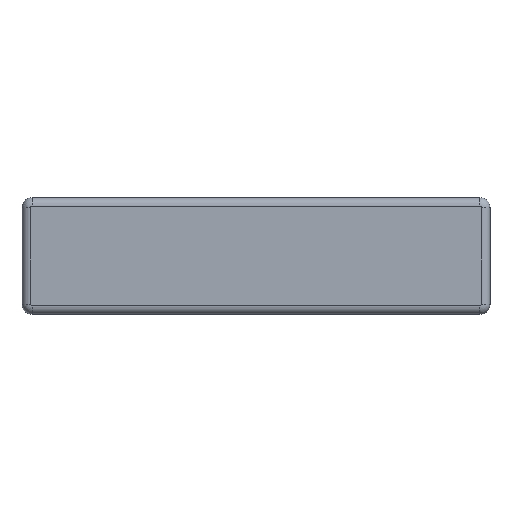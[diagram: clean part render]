
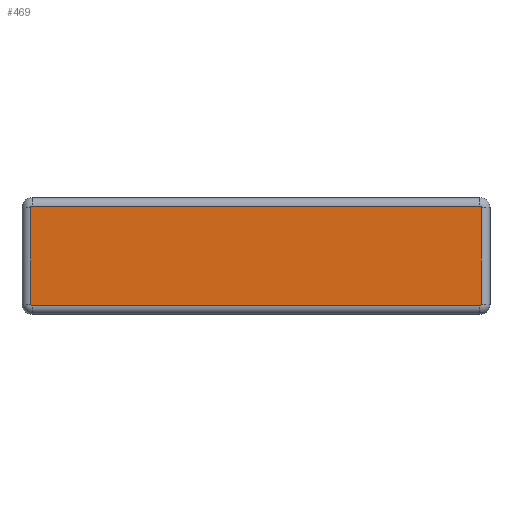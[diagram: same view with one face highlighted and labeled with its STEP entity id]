
A CAD part, top view. The second image highlights one B-rep face of the part: STEP entity #469.
In plain terms, the highlighted planar face has unit normal (0, 0, 1).
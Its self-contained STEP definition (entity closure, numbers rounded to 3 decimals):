
#28 = DIRECTION ( 'NONE',  ( 0., 1., 0. ) ) ;
#35 = ORIENTED_EDGE ( 'NONE', *, *, #3193, .T. ) ;
#57 = VERTEX_POINT ( 'NONE', #1287 ) ;
#117 = VERTEX_POINT ( 'NONE', #440 ) ;
#139 = DIRECTION ( 'NONE',  ( 1., 0., 0. ) ) ;
#174 = AXIS2_PLACEMENT_3D ( 'NONE', #2927, #300, #2661 ) ;
#239 = CARTESIAN_POINT ( 'NONE',  ( -76.5, 16.5, 0. ) ) ;
#300 = DIRECTION ( 'NONE',  ( 0., 0., -1. ) ) ;
#327 = CARTESIAN_POINT ( 'NONE',  ( -76.5, -16.5, 0. ) ) ;
#424 = EDGE_CURVE ( 'NONE', #2783, #1901, #2134, .T. ) ;
#440 = CARTESIAN_POINT ( 'NONE',  ( -76.5, 17., 0. ) ) ;
#469 = ADVANCED_FACE ( 'NONE', ( #3185 ), #2573, .T. ) ;
#511 = VERTEX_POINT ( 'NONE', #1739 ) ;
#513 = EDGE_CURVE ( 'NONE', #57, #2973, #842, .T. ) ;
#587 = VERTEX_POINT ( 'NONE', #2153 ) ;
#593 = EDGE_CURVE ( 'NONE', #511, #587, #3104, .T. ) ;
#666 = ORIENTED_EDGE ( 'NONE', *, *, #513, .F. ) ;
#668 = EDGE_CURVE ( 'NONE', #57, #117, #1249, .T. ) ;
#676 = CARTESIAN_POINT ( 'NONE',  ( 76.5, -17., 0. ) ) ;
#695 = VERTEX_POINT ( 'NONE', #2976 ) ;
#817 = CARTESIAN_POINT ( 'NONE',  ( -77., 16.5, 0. ) ) ;
#820 = DIRECTION ( 'NONE',  ( 0., -1., 0. ) ) ;
#842 = CIRCLE ( 'NONE', #1531, 0.5 ) ;
#1129 = CARTESIAN_POINT ( 'NONE',  ( -76.5, 16.5, 0. ) ) ;
#1147 = DIRECTION ( 'NONE',  ( 0., -1., 0. ) ) ;
#1241 = VECTOR ( 'NONE', #139, 1000. ) ;
#1249 = LINE ( 'NONE', #3576, #1390 ) ;
#1252 = CARTESIAN_POINT ( 'NONE',  ( 77., 16.5, 0. ) ) ;
#1258 = ORIENTED_EDGE ( 'NONE', *, *, #668, .T. ) ;
#1287 = CARTESIAN_POINT ( 'NONE',  ( 76.5, 17., 0. ) ) ;
#1381 = DIRECTION ( 'NONE',  ( 0., -1., 0. ) ) ;
#1382 = ORIENTED_EDGE ( 'NONE', *, *, #424, .F. ) ;
#1390 = VECTOR ( 'NONE', #2725, 1000. ) ;
#1531 = AXIS2_PLACEMENT_3D ( 'NONE', #2902, #1695, #3487 ) ;
#1542 = EDGE_CURVE ( 'NONE', #2783, #2973, #3540, .T. ) ;
#1553 = EDGE_LOOP ( 'NONE', ( #666, #1258, #2832, #35, #2359, #3005, #1382, #3216 ) ) ;
#1677 = EDGE_CURVE ( 'NONE', #511, #1901, #3667, .T. ) ;
#1695 = DIRECTION ( 'NONE',  ( 0., 0., -1. ) ) ;
#1705 = AXIS2_PLACEMENT_3D ( 'NONE', #327, #3523, #3278 ) ;
#1739 = CARTESIAN_POINT ( 'NONE',  ( -76.5, -17., 0. ) ) ;
#1864 = AXIS2_PLACEMENT_3D ( 'NONE', #239, #1979, #1381 ) ;
#1901 = VERTEX_POINT ( 'NONE', #676 ) ;
#1979 = DIRECTION ( 'NONE',  ( 0., 0., -1. ) ) ;
#2134 = CIRCLE ( 'NONE', #174, 0.5 ) ;
#2153 = CARTESIAN_POINT ( 'NONE',  ( -77., -16.5, 0. ) ) ;
#2228 = CARTESIAN_POINT ( 'NONE',  ( -76.5, -17., 0. ) ) ;
#2359 = ORIENTED_EDGE ( 'NONE', *, *, #593, .F. ) ;
#2496 = AXIS2_PLACEMENT_3D ( 'NONE', #1129, #2614, #820 ) ;
#2573 = PLANE ( 'NONE',  #2496 ) ;
#2586 = CIRCLE ( 'NONE', #1864, 0.5 ) ;
#2613 = EDGE_CURVE ( 'NONE', #695, #117, #2586, .T. ) ;
#2614 = DIRECTION ( 'NONE',  ( 0., 0., 1. ) ) ;
#2653 = CARTESIAN_POINT ( 'NONE',  ( 77., 16.5, 0. ) ) ;
#2661 = DIRECTION ( 'NONE',  ( 0., -1., 0. ) ) ;
#2725 = DIRECTION ( 'NONE',  ( -1., 0., 0. ) ) ;
#2783 = VERTEX_POINT ( 'NONE', #3205 ) ;
#2832 = ORIENTED_EDGE ( 'NONE', *, *, #2613, .F. ) ;
#2902 = CARTESIAN_POINT ( 'NONE',  ( 76.5, 16.5, 0. ) ) ;
#2927 = CARTESIAN_POINT ( 'NONE',  ( 76.5, -16.5, 0. ) ) ;
#2973 = VERTEX_POINT ( 'NONE', #1252 ) ;
#2976 = CARTESIAN_POINT ( 'NONE',  ( -77., 16.5, 0. ) ) ;
#3005 = ORIENTED_EDGE ( 'NONE', *, *, #1677, .T. ) ;
#3104 = CIRCLE ( 'NONE', #1705, 0.5 ) ;
#3142 = LINE ( 'NONE', #817, #3702 ) ;
#3185 = FACE_OUTER_BOUND ( 'NONE', #1553, .T. ) ;
#3193 = EDGE_CURVE ( 'NONE', #695, #587, #3142, .T. ) ;
#3205 = CARTESIAN_POINT ( 'NONE',  ( 77., -16.5, 0. ) ) ;
#3216 = ORIENTED_EDGE ( 'NONE', *, *, #1542, .T. ) ;
#3278 = DIRECTION ( 'NONE',  ( 0., -1., 0. ) ) ;
#3487 = DIRECTION ( 'NONE',  ( 0., -1., 0. ) ) ;
#3523 = DIRECTION ( 'NONE',  ( 0., 0., -1. ) ) ;
#3540 = LINE ( 'NONE', #2653, #3588 ) ;
#3576 = CARTESIAN_POINT ( 'NONE',  ( -76.5, 17., 0. ) ) ;
#3588 = VECTOR ( 'NONE', #28, 1000. ) ;
#3667 = LINE ( 'NONE', #2228, #1241 ) ;
#3702 = VECTOR ( 'NONE', #1147, 1000. ) ;
